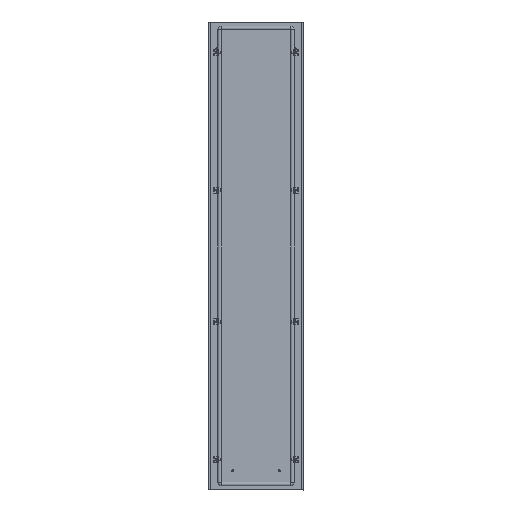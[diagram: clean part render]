
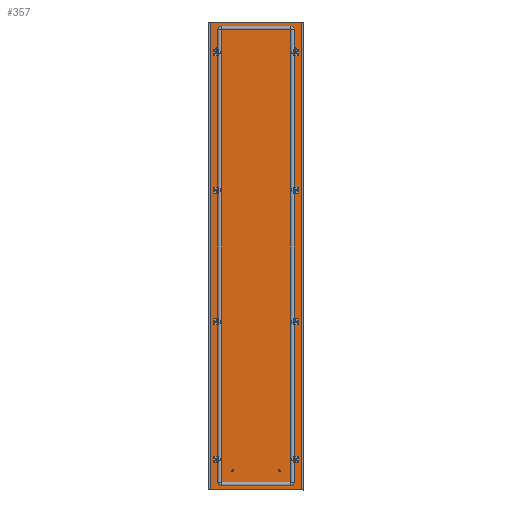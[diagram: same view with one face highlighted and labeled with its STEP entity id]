
A CAD part, top view. The second image highlights one B-rep face of the part: STEP entity #357.
In plain terms, the highlighted planar face has unit normal (0, 0, 1).
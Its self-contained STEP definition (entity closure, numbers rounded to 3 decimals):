
#357 = ADVANCED_FACE('',(#358,#456,#467,#478,#498,#518,#529,#540,#560),
  #580,.F.);
#358 = FACE_BOUND('',#359,.T.);
#359 = EDGE_LOOP('',(#360,#370,#378,#386,#394,#402,#410,#418,#426,#434,
    #442,#450));
#360 = ORIENTED_EDGE('',*,*,#361,.F.);
#361 = EDGE_CURVE('',#362,#364,#366,.T.);
#362 = VERTEX_POINT('',#363);
#363 = CARTESIAN_POINT('',(-195.5,977.5,0.));
#364 = VERTEX_POINT('',#365);
#365 = CARTESIAN_POINT('',(-195.3,977.5,0.));
#366 = LINE('',#367,#368);
#367 = CARTESIAN_POINT('',(0.,977.5,0.)
  );
#368 = VECTOR('',#369,1.);
#369 = DIRECTION('',(1.,0.,0.));
#370 = ORIENTED_EDGE('',*,*,#371,.T.);
#371 = EDGE_CURVE('',#362,#372,#374,.T.);
#372 = VERTEX_POINT('',#373);
#373 = CARTESIAN_POINT('',(-195.5,-977.5,0.));
#374 = LINE('',#375,#376);
#375 = CARTESIAN_POINT('',(-195.5,0.,0.));
#376 = VECTOR('',#377,1.);
#377 = DIRECTION('',(0.,-1.,-0.));
#378 = ORIENTED_EDGE('',*,*,#379,.T.);
#379 = EDGE_CURVE('',#372,#380,#382,.T.);
#380 = VERTEX_POINT('',#381);
#381 = CARTESIAN_POINT('',(-195.3,-977.5,0.));
#382 = LINE('',#383,#384);
#383 = CARTESIAN_POINT('',(0.,-977.5,
    0.));
#384 = VECTOR('',#385,1.);
#385 = DIRECTION('',(1.,-0.,-0.));
#386 = ORIENTED_EDGE('',*,*,#387,.F.);
#387 = EDGE_CURVE('',#388,#380,#390,.T.);
#388 = VERTEX_POINT('',#389);
#389 = CARTESIAN_POINT('',(-195.3,-976.,0.));
#390 = LINE('',#391,#392);
#391 = CARTESIAN_POINT('',(-195.3,0.,0.)
  );
#392 = VECTOR('',#393,1.);
#393 = DIRECTION('',(0.,-1.,0.));
#394 = ORIENTED_EDGE('',*,*,#395,.T.);
#395 = EDGE_CURVE('',#388,#396,#398,.T.);
#396 = VERTEX_POINT('',#397);
#397 = CARTESIAN_POINT('',(195.3,-976.,0.));
#398 = LINE('',#399,#400);
#399 = CARTESIAN_POINT('',(0.,-976.,
    0.));
#400 = VECTOR('',#401,1.);
#401 = DIRECTION('',(1.,-0.,-0.));
#402 = ORIENTED_EDGE('',*,*,#403,.T.);
#403 = EDGE_CURVE('',#396,#404,#406,.T.);
#404 = VERTEX_POINT('',#405);
#405 = CARTESIAN_POINT('',(195.3,-977.5,0.));
#406 = LINE('',#407,#408);
#407 = CARTESIAN_POINT('',(195.3,-976.,0.));
#408 = VECTOR('',#409,1.);
#409 = DIRECTION('',(0.,-1.,-0.));
#410 = ORIENTED_EDGE('',*,*,#411,.F.);
#411 = EDGE_CURVE('',#412,#404,#414,.T.);
#412 = VERTEX_POINT('',#413);
#413 = CARTESIAN_POINT('',(195.5,-977.5,0.));
#414 = LINE('',#415,#416);
#415 = CARTESIAN_POINT('',(0.,-977.5,0.
    ));
#416 = VECTOR('',#417,1.);
#417 = DIRECTION('',(-1.,0.,0.));
#418 = ORIENTED_EDGE('',*,*,#419,.T.);
#419 = EDGE_CURVE('',#412,#420,#422,.T.);
#420 = VERTEX_POINT('',#421);
#421 = CARTESIAN_POINT('',(195.5,977.5,0.));
#422 = LINE('',#423,#424);
#423 = CARTESIAN_POINT('',(195.5,0.,0.));
#424 = VECTOR('',#425,1.);
#425 = DIRECTION('',(-0.,1.,-0.));
#426 = ORIENTED_EDGE('',*,*,#427,.T.);
#427 = EDGE_CURVE('',#420,#428,#430,.T.);
#428 = VERTEX_POINT('',#429);
#429 = CARTESIAN_POINT('',(195.3,977.5,0.));
#430 = LINE('',#431,#432);
#431 = CARTESIAN_POINT('',(0.,977.5,0.)
  );
#432 = VECTOR('',#433,1.);
#433 = DIRECTION('',(-1.,-0.,-0.));
#434 = ORIENTED_EDGE('',*,*,#435,.F.);
#435 = EDGE_CURVE('',#436,#428,#438,.T.);
#436 = VERTEX_POINT('',#437);
#437 = CARTESIAN_POINT('',(195.3,976.,0.));
#438 = LINE('',#439,#440);
#439 = CARTESIAN_POINT('',(195.3,0.,0.)
  );
#440 = VECTOR('',#441,1.);
#441 = DIRECTION('',(0.,1.,0.));
#442 = ORIENTED_EDGE('',*,*,#443,.T.);
#443 = EDGE_CURVE('',#436,#444,#446,.T.);
#444 = VERTEX_POINT('',#445);
#445 = CARTESIAN_POINT('',(-195.3,976.,0.));
#446 = LINE('',#447,#448);
#447 = CARTESIAN_POINT('',(0.,976.,0.)
  );
#448 = VECTOR('',#449,1.);
#449 = DIRECTION('',(-1.,-0.,-0.));
#450 = ORIENTED_EDGE('',*,*,#451,.T.);
#451 = EDGE_CURVE('',#444,#364,#452,.T.);
#452 = LINE('',#453,#454);
#453 = CARTESIAN_POINT('',(-195.3,976.,0.));
#454 = VECTOR('',#455,1.);
#455 = DIRECTION('',(0.,1.,-0.));
#456 = FACE_BOUND('',#457,.T.);
#457 = EDGE_LOOP('',(#458));
#458 = ORIENTED_EDGE('',*,*,#459,.T.);
#459 = EDGE_CURVE('',#460,#460,#462,.T.);
#460 = VERTEX_POINT('',#461);
#461 = CARTESIAN_POINT('',(-164.5,-270.25,0.));
#462 = CIRCLE('',#463,4.75);
#463 = AXIS2_PLACEMENT_3D('',#464,#465,#466);
#464 = CARTESIAN_POINT('',(-164.5,-275.,0.));
#465 = DIRECTION('',(0.,0.,-1.));
#466 = DIRECTION('',(0.,1.,0.));
#467 = FACE_BOUND('',#468,.T.);
#468 = EDGE_LOOP('',(#469));
#469 = ORIENTED_EDGE('',*,*,#470,.T.);
#470 = EDGE_CURVE('',#471,#471,#473,.T.);
#471 = VERTEX_POINT('',#472);
#472 = CARTESIAN_POINT('',(164.5,-279.75,0.));
#473 = CIRCLE('',#474,4.75);
#474 = AXIS2_PLACEMENT_3D('',#475,#476,#477);
#475 = CARTESIAN_POINT('',(164.5,-275.,0.));
#476 = DIRECTION('',(-0.,0.,-1.));
#477 = DIRECTION('',(0.,-1.,0.));
#478 = FACE_BOUND('',#479,.T.);
#479 = EDGE_LOOP('',(#480,#491));
#480 = ORIENTED_EDGE('',*,*,#481,.F.);
#481 = EDGE_CURVE('',#482,#484,#486,.T.);
#482 = VERTEX_POINT('',#483);
#483 = CARTESIAN_POINT('',(-164.5,854.75,0.));
#484 = VERTEX_POINT('',#485);
#485 = CARTESIAN_POINT('',(-164.5,845.25,0.));
#486 = CIRCLE('',#487,4.75);
#487 = AXIS2_PLACEMENT_3D('',#488,#489,#490);
#488 = CARTESIAN_POINT('',(-164.5,850.,0.));
#489 = DIRECTION('',(0.,0.,1.));
#490 = DIRECTION('',(0.,1.,0.));
#491 = ORIENTED_EDGE('',*,*,#492,.F.);
#492 = EDGE_CURVE('',#484,#482,#493,.T.);
#493 = CIRCLE('',#494,4.75);
#494 = AXIS2_PLACEMENT_3D('',#495,#496,#497);
#495 = CARTESIAN_POINT('',(-164.5,850.,0.));
#496 = DIRECTION('',(0.,0.,1.));
#497 = DIRECTION('',(0.,1.,0.));
#498 = FACE_BOUND('',#499,.T.);
#499 = EDGE_LOOP('',(#500,#511));
#500 = ORIENTED_EDGE('',*,*,#501,.F.);
#501 = EDGE_CURVE('',#502,#504,#506,.T.);
#502 = VERTEX_POINT('',#503);
#503 = CARTESIAN_POINT('',(164.5,845.25,0.));
#504 = VERTEX_POINT('',#505);
#505 = CARTESIAN_POINT('',(164.5,854.75,0.));
#506 = CIRCLE('',#507,4.75);
#507 = AXIS2_PLACEMENT_3D('',#508,#509,#510);
#508 = CARTESIAN_POINT('',(164.5,850.,0.));
#509 = DIRECTION('',(0.,0.,1.));
#510 = DIRECTION('',(0.,-1.,0.));
#511 = ORIENTED_EDGE('',*,*,#512,.F.);
#512 = EDGE_CURVE('',#504,#502,#513,.T.);
#513 = CIRCLE('',#514,4.75);
#514 = AXIS2_PLACEMENT_3D('',#515,#516,#517);
#515 = CARTESIAN_POINT('',(164.5,850.,0.));
#516 = DIRECTION('',(0.,0.,1.));
#517 = DIRECTION('',(0.,-1.,0.));
#518 = FACE_BOUND('',#519,.T.);
#519 = EDGE_LOOP('',(#520));
#520 = ORIENTED_EDGE('',*,*,#521,.T.);
#521 = EDGE_CURVE('',#522,#522,#524,.T.);
#522 = VERTEX_POINT('',#523);
#523 = CARTESIAN_POINT('',(-164.5,-845.25,0.));
#524 = CIRCLE('',#525,4.75);
#525 = AXIS2_PLACEMENT_3D('',#526,#527,#528);
#526 = CARTESIAN_POINT('',(-164.5,-850.,0.));
#527 = DIRECTION('',(0.,0.,-1.));
#528 = DIRECTION('',(0.,1.,0.));
#529 = FACE_BOUND('',#530,.T.);
#530 = EDGE_LOOP('',(#531));
#531 = ORIENTED_EDGE('',*,*,#532,.T.);
#532 = EDGE_CURVE('',#533,#533,#535,.T.);
#533 = VERTEX_POINT('',#534);
#534 = CARTESIAN_POINT('',(164.5,-854.75,0.));
#535 = CIRCLE('',#536,4.75);
#536 = AXIS2_PLACEMENT_3D('',#537,#538,#539);
#537 = CARTESIAN_POINT('',(164.5,-850.,0.));
#538 = DIRECTION('',(-0.,0.,-1.));
#539 = DIRECTION('',(0.,-1.,0.));
#540 = FACE_BOUND('',#541,.T.);
#541 = EDGE_LOOP('',(#542,#553));
#542 = ORIENTED_EDGE('',*,*,#543,.F.);
#543 = EDGE_CURVE('',#544,#546,#548,.T.);
#544 = VERTEX_POINT('',#545);
#545 = CARTESIAN_POINT('',(164.5,270.25,0.));
#546 = VERTEX_POINT('',#547);
#547 = CARTESIAN_POINT('',(164.5,279.75,0.));
#548 = CIRCLE('',#549,4.75);
#549 = AXIS2_PLACEMENT_3D('',#550,#551,#552);
#550 = CARTESIAN_POINT('',(164.5,275.,0.));
#551 = DIRECTION('',(0.,0.,1.));
#552 = DIRECTION('',(0.,-1.,0.));
#553 = ORIENTED_EDGE('',*,*,#554,.F.);
#554 = EDGE_CURVE('',#546,#544,#555,.T.);
#555 = CIRCLE('',#556,4.75);
#556 = AXIS2_PLACEMENT_3D('',#557,#558,#559);
#557 = CARTESIAN_POINT('',(164.5,275.,0.));
#558 = DIRECTION('',(0.,0.,1.));
#559 = DIRECTION('',(0.,-1.,0.));
#560 = FACE_BOUND('',#561,.T.);
#561 = EDGE_LOOP('',(#562,#573));
#562 = ORIENTED_EDGE('',*,*,#563,.F.);
#563 = EDGE_CURVE('',#564,#566,#568,.T.);
#564 = VERTEX_POINT('',#565);
#565 = CARTESIAN_POINT('',(-164.5,279.75,0.));
#566 = VERTEX_POINT('',#567);
#567 = CARTESIAN_POINT('',(-164.5,270.25,0.));
#568 = CIRCLE('',#569,4.75);
#569 = AXIS2_PLACEMENT_3D('',#570,#571,#572);
#570 = CARTESIAN_POINT('',(-164.5,275.,0.));
#571 = DIRECTION('',(0.,0.,1.));
#572 = DIRECTION('',(0.,1.,0.));
#573 = ORIENTED_EDGE('',*,*,#574,.F.);
#574 = EDGE_CURVE('',#566,#564,#575,.T.);
#575 = CIRCLE('',#576,4.75);
#576 = AXIS2_PLACEMENT_3D('',#577,#578,#579);
#577 = CARTESIAN_POINT('',(-164.5,275.,0.));
#578 = DIRECTION('',(0.,0.,1.));
#579 = DIRECTION('',(0.,1.,0.));
#580 = PLANE('',#581);
#581 = AXIS2_PLACEMENT_3D('',#582,#583,#584);
#582 = CARTESIAN_POINT('',(0.,0.,0.));
#583 = DIRECTION('',(0.,0.,-1.));
#584 = DIRECTION('',(-1.,0.,0.));
